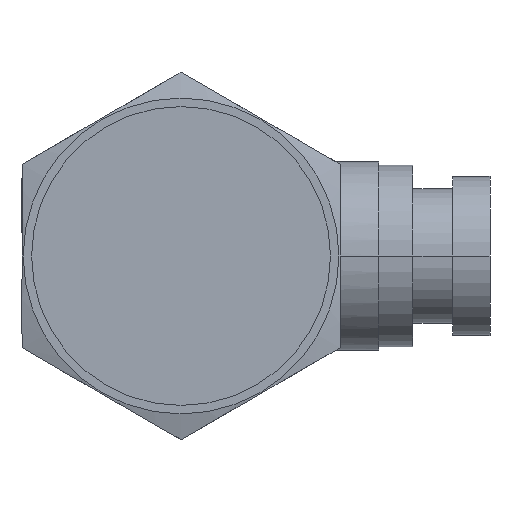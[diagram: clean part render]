
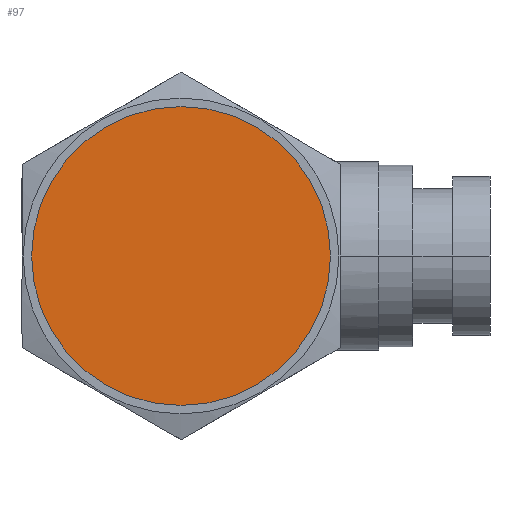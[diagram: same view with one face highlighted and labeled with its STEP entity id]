
A CAD part, front view. The second image highlights one B-rep face of the part: STEP entity #97.
In plain terms, the highlighted planar face has unit normal (0, -1, 0).
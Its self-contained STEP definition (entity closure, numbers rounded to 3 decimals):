
#97 = ADVANCED_FACE( '', ( #172 ), #173, .T. );
#172 = FACE_OUTER_BOUND( '', #283, .T. );
#173 = PLANE( '', #284 );
#283 = EDGE_LOOP( '', ( #524, #525 ) );
#284 = AXIS2_PLACEMENT_3D( '', #526, #527, #528 );
#524 = ORIENTED_EDGE( '', *, *, #794, .F. );
#525 = ORIENTED_EDGE( '', *, *, #836, .F. );
#526 = CARTESIAN_POINT( '', ( 3.289, -4.75, 0. ) );
#527 = DIRECTION( '', ( 0., -1., 0. ) );
#528 = DIRECTION( '', ( -1., 0., 0. ) );
#794 = EDGE_CURVE( '', #956, #959, #960, .T. );
#836 = EDGE_CURVE( '', #959, #956, #1028, .T. );
#956 = VERTEX_POINT( '', #1260 );
#959 = VERTEX_POINT( '', #1264 );
#960 = CIRCLE( '', #1265, 6.579 );
#1028 = CIRCLE( '', #1480, 6.579 );
#1260 = CARTESIAN_POINT( '', ( 6.579, -4.75, 0. ) );
#1264 = CARTESIAN_POINT( '', ( -6.579, -4.75, 0. ) );
#1265 = AXIS2_PLACEMENT_3D( '', #1635, #1636, #1637 );
#1480 = AXIS2_PLACEMENT_3D( '', #1686, #1687, #1688 );
#1635 = CARTESIAN_POINT( '', ( 0., -4.75, 0. ) );
#1636 = DIRECTION( '', ( 0., 1., 0. ) );
#1637 = DIRECTION( '', ( 1., 0., 0. ) );
#1686 = CARTESIAN_POINT( '', ( 0., -4.75, 0. ) );
#1687 = DIRECTION( '', ( 0., 1., 0. ) );
#1688 = DIRECTION( '', ( 1., 0., 0. ) );
